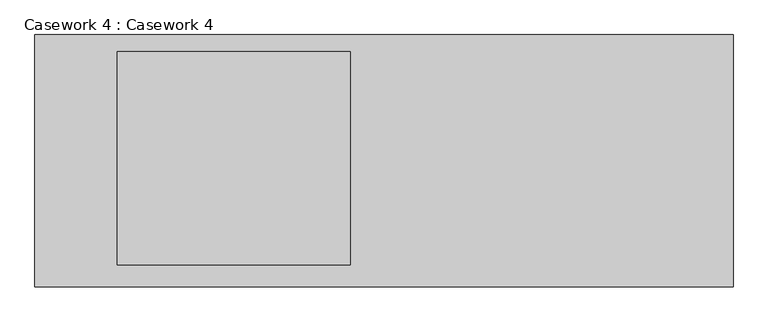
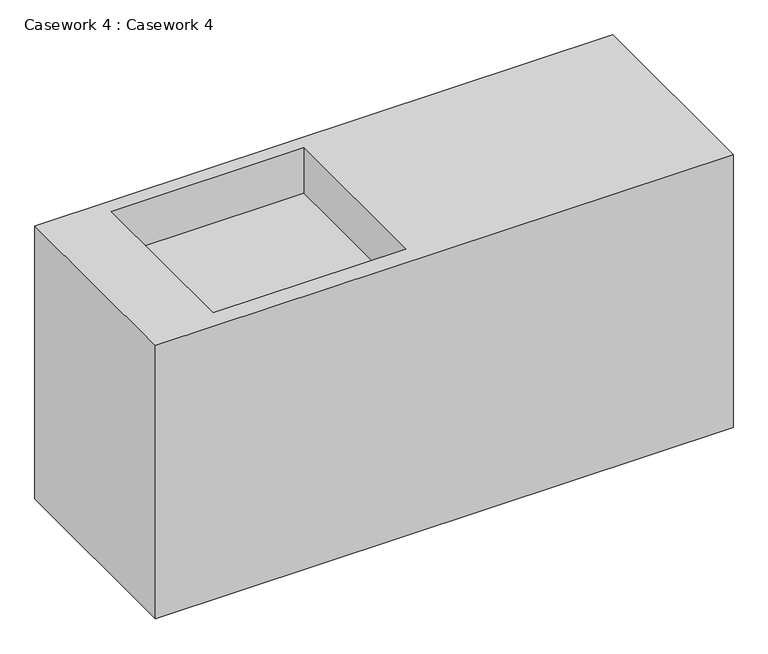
"""IFC4 building model written with IfcOpenShell, lengths in millimetres: furniture geometry, Casework 4 : Casework 4."""

from ifc_helpers import new_model, si_unit, origin, place, context, project, spatial, faceted_brep, source, transform, mapped, element, save


def casework_4_casework_4_209947f0(model_context):
    return source(origin(), model_context, "Body", "Brep", [
        faceted_brep([(6019.8, 13766.6947939, 4262.4), (6019.8, 14427.0947939, 4262.4), (4191.0, 14427.0947939, 4262.4), (4191.0, 13766.6947939, 4262.4), (5016.5, 13823.8447939, 4262.4), (4406.9, 13823.8447939, 4262.4), (4406.9, 14382.6447939, 4262.4), (5016.5, 14382.6447939, 4262.4), (6019.8, 13766.6947939, 3348.0), (4191.0, 13766.6947939, 3348.0), (4191.0, 14427.0947939, 3348.0), (6019.8, 14427.0947939, 3348.0), (5016.5, 13823.8447939, 4110.0), (5016.5, 14382.6447939, 4110.0), (4406.9, 14382.6447939, 4110.0), (4406.9, 13823.8447939, 4110.0)], [[[0, 1, 2, 3], [4, 5, 6, 7]], [[8, 9, 10, 11]], [[1, 0, 8, 11]], [[2, 1, 11, 10]], [[3, 2, 10, 9]], [[0, 3, 9, 8]], [[12, 13, 14, 15]], [[12, 15, 5, 4]], [[15, 14, 6, 5]], [[14, 13, 7, 6]], [[13, 12, 4, 7]]]),
    ])


if __name__ == "__main__":
    model = new_model("IFC4")
    model_context = context("Model", 3, world=origin())
    ifc_project = project(units=[si_unit("LENGTHUNIT", "METRE", prefix="MILLI")], contexts=[model_context])
    site = spatial("IfcSite", under=ifc_project)
    building = spatial("IfcBuilding", under=site)
    placement = place(None, origin())
    casework_4_casework_4_shape = casework_4_casework_4_209947f0(model_context)
    element("IfcFurniture", 1, ObjectType="Casework 4 : Casework 4", at=placement, inside=building, context=model_context, shape_type="MappedRepresentation", body=[
        mapped(casework_4_casework_4_shape, transform((0.0, 0.0, 0.0), x_axis=(1.0, 0.0, 0.0), y_axis=(0.0, 1.0, 0.0), z_axis=(0.0, 0.0, 1.0))),
    ])
    save(model, "model.ifc")
